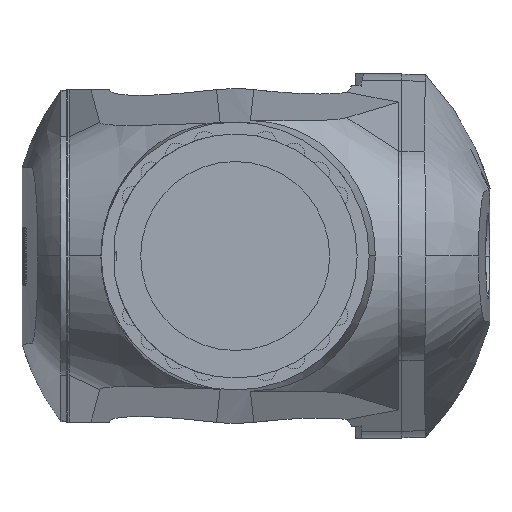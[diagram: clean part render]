
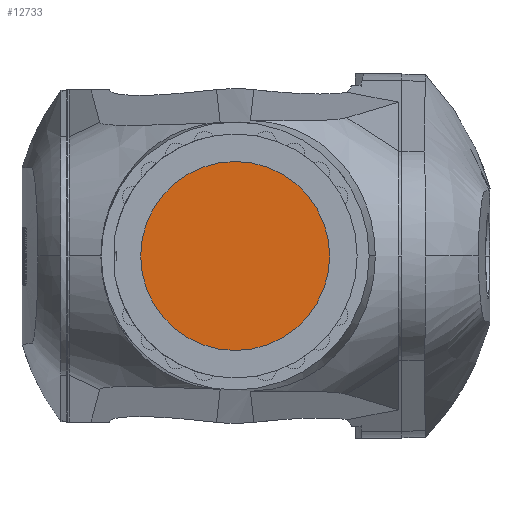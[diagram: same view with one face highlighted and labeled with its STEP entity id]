
A CAD part, left-side view. The second image highlights one B-rep face of the part: STEP entity #12733.
In plain terms, the highlighted planar face has unit normal (-1, 0, 0).
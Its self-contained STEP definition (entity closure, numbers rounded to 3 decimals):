
#2816 = EDGE_CURVE ( 'NONE', #6203, #6413, #26599, .T. ) ;
#3086 = AXIS2_PLACEMENT_3D ( 'NONE', #14104, #14105, #14106 ) ;
#6203 = VERTEX_POINT ( 'NONE', #24115 ) ;
#6413 = VERTEX_POINT ( 'NONE', #24396 ) ;
#7098 = ORIENTED_EDGE ( 'NONE', *, *, #2816, .T. ) ;
#7100 = ORIENTED_EDGE ( 'NONE', *, *, #23935, .T. ) ;
#8426 = FACE_OUTER_BOUND ( 'NONE', #13150, .T. ) ;
#9509 = CARTESIAN_POINT ( 'NONE',  ( 70., 0., 2204.952 ) ) ;
#9523 = PLANE ( 'NONE',  #11821 ) ;
#9527 = DIRECTION ( 'NONE',  ( 1., 0., 0. ) ) ;
#9529 = DIRECTION ( 'NONE',  ( 0., 0., 1. ) ) ;
#11821 = AXIS2_PLACEMENT_3D ( 'NONE', #9509, #9527, #9529 ) ;
#12240 = AXIS2_PLACEMENT_3D ( 'NONE', #17502, #17503, #17504 ) ;
#12733 = ADVANCED_FACE ( 'NONE', ( #8426 ), #9523, .F. ) ;
#13150 = EDGE_LOOP ( 'NONE', ( #7100, #7098 ) ) ;
#14104 = CARTESIAN_POINT ( 'NONE',  ( 70., 0., 2125. ) ) ;
#14105 = DIRECTION ( 'NONE',  ( -1., 0., 0. ) ) ;
#14106 = DIRECTION ( 'NONE',  ( 0., 0., -1. ) ) ;
#15849 = CIRCLE ( 'NONE', #12240, 82.5 ) ;
#17502 = CARTESIAN_POINT ( 'NONE',  ( 70., 0., 2125. ) ) ;
#17503 = DIRECTION ( 'NONE',  ( -1., 0., 0. ) ) ;
#17504 = DIRECTION ( 'NONE',  ( 0., 0., -1. ) ) ;
#23935 = EDGE_CURVE ( 'NONE', #6413, #6203, #15849, .T. ) ;
#24115 = CARTESIAN_POINT ( 'NONE',  ( 70., 0., 2207.5 ) ) ;
#24396 = CARTESIAN_POINT ( 'NONE',  ( 70., 0., 2042.5 ) ) ;
#26599 = CIRCLE ( 'NONE', #3086, 82.5 ) ;
